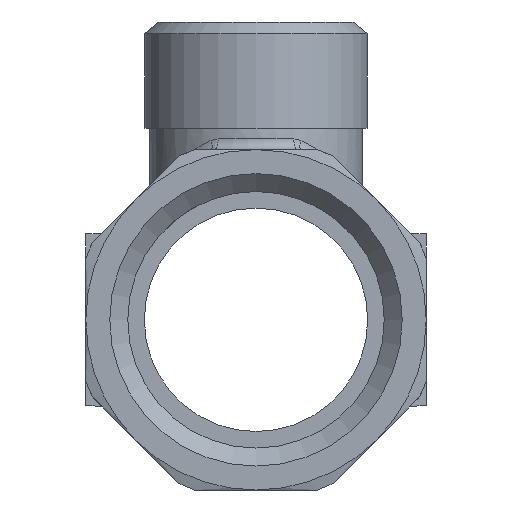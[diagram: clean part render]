
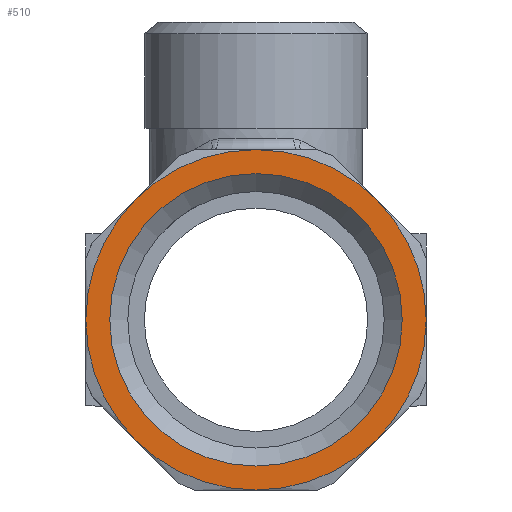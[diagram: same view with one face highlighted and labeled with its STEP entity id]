
A CAD part, front view. The second image highlights one B-rep face of the part: STEP entity #510.
In plain terms, the highlighted planar face has unit normal (0, -1, 0).
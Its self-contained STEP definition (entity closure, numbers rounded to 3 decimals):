
#510=ADVANCED_FACE('',(#6898,#6900),#6902,.F.);
#6898=FACE_BOUND('',#6899,.T.);
#6899=EDGE_LOOP('',(#11787,#11788,#11789,#11790,#11791,#11792,#11793,#11794));
#6900=FACE_BOUND('',#6901,.T.);
#6901=EDGE_LOOP('',(#11795));
#6902=PLANE('',#6903);
#6903=AXIS2_PLACEMENT_3D('',#6904,#6905,#6906);
#6904=CARTESIAN_POINT('',(0.,0.,0.));
#6905=DIRECTION('',(0.,1.,0.));
#6906=DIRECTION('',(-1.,0.,0.));
#11787=ORIENTED_EDGE('',*,*,#14502,.T.);
#11788=ORIENTED_EDGE('',*,*,#14501,.T.);
#11789=ORIENTED_EDGE('',*,*,#14500,.T.);
#11790=ORIENTED_EDGE('',*,*,#14507,.T.);
#11791=ORIENTED_EDGE('',*,*,#14506,.T.);
#11792=ORIENTED_EDGE('',*,*,#14505,.T.);
#11793=ORIENTED_EDGE('',*,*,#14504,.T.);
#11794=ORIENTED_EDGE('',*,*,#14503,.T.);
#11795=ORIENTED_EDGE('',*,*,#14673,.T.);
#14500=EDGE_CURVE('',#17124,#17180,#17224,.T.);
#14501=EDGE_CURVE('',#17132,#17124,#17225,.T.);
#14502=EDGE_CURVE('',#17140,#17132,#17226,.T.);
#14503=EDGE_CURVE('',#17148,#17140,#17227,.T.);
#14504=EDGE_CURVE('',#17156,#17148,#17228,.T.);
#14505=EDGE_CURVE('',#17164,#17156,#17229,.T.);
#14506=EDGE_CURVE('',#17172,#17164,#17230,.T.);
#14507=EDGE_CURVE('',#17180,#17172,#17231,.T.);
#14673=EDGE_CURVE('',#17562,#17562,#17563,.F.);
#17124=VERTEX_POINT('',#32276);
#17132=VERTEX_POINT('',#32333);
#17140=VERTEX_POINT('',#32382);
#17148=VERTEX_POINT('',#32454);
#17156=VERTEX_POINT('',#32503);
#17164=VERTEX_POINT('',#32560);
#17172=VERTEX_POINT('',#32609);
#17180=VERTEX_POINT('',#32666);
#17224=CIRCLE('',#32804,16.);
#17225=CIRCLE('',#32808,16.);
#17226=CIRCLE('',#32812,16.);
#17227=CIRCLE('',#32816,16.);
#17228=CIRCLE('',#32820,16.);
#17229=CIRCLE('',#32824,16.);
#17230=CIRCLE('',#32828,16.);
#17231=CIRCLE('',#32832,16.);
#17562=VERTEX_POINT('',#33501);
#17563=CIRCLE('',#33502,13.75);
#32276=CARTESIAN_POINT('',(0.,0.,16.));
#32333=CARTESIAN_POINT('',(11.314,0.,11.314));
#32382=CARTESIAN_POINT('',(16.,0.,0.));
#32454=CARTESIAN_POINT('',(11.314,0.,-11.314));
#32503=CARTESIAN_POINT('',(0.,0.,-16.));
#32560=CARTESIAN_POINT('',(-11.314,0.,-11.314));
#32609=CARTESIAN_POINT('',(-16.,0.,0.));
#32666=CARTESIAN_POINT('',(-11.314,0.,11.314));
#32804=AXIS2_PLACEMENT_3D('',#32805,#32806,#32807);
#32805=CARTESIAN_POINT('',(0.,0.,0.));
#32806=DIRECTION('',(0.,-1.,0.));
#32807=DIRECTION('',(0.,0.,1.));
#32808=AXIS2_PLACEMENT_3D('',#32809,#32810,#32811);
#32809=CARTESIAN_POINT('',(0.,0.,0.));
#32810=DIRECTION('',(0.,-1.,0.));
#32811=DIRECTION('',(0.707,0.,0.707));
#32812=AXIS2_PLACEMENT_3D('',#32813,#32814,#32815);
#32813=CARTESIAN_POINT('',(0.,0.,0.));
#32814=DIRECTION('',(0.,-1.,0.));
#32815=DIRECTION('',(1.,0.,0.));
#32816=AXIS2_PLACEMENT_3D('',#32817,#32818,#32819);
#32817=CARTESIAN_POINT('',(0.,0.,0.));
#32818=DIRECTION('',(0.,-1.,0.));
#32819=DIRECTION('',(0.707,0.,-0.707));
#32820=AXIS2_PLACEMENT_3D('',#32821,#32822,#32823);
#32821=CARTESIAN_POINT('',(0.,0.,0.));
#32822=DIRECTION('',(0.,-1.,0.));
#32823=DIRECTION('',(0.,0.,-1.));
#32824=AXIS2_PLACEMENT_3D('',#32825,#32826,#32827);
#32825=CARTESIAN_POINT('',(0.,0.,0.));
#32826=DIRECTION('',(0.,-1.,0.));
#32827=DIRECTION('',(-0.707,0.,-0.707));
#32828=AXIS2_PLACEMENT_3D('',#32829,#32830,#32831);
#32829=CARTESIAN_POINT('',(0.,0.,0.));
#32830=DIRECTION('',(0.,-1.,0.));
#32831=DIRECTION('',(-1.,0.,0.));
#32832=AXIS2_PLACEMENT_3D('',#32833,#32834,#32835);
#32833=CARTESIAN_POINT('',(0.,0.,0.));
#32834=DIRECTION('',(0.,-1.,0.));
#32835=DIRECTION('',(-0.707,0.,0.707));
#33501=CARTESIAN_POINT('',(13.75,0.,0.));
#33502=AXIS2_PLACEMENT_3D('',#33503,#33504,#33505);
#33503=CARTESIAN_POINT('',(0.,0.,0.));
#33504=DIRECTION('',(0.,-1.,0.));
#33505=DIRECTION('',(1.,0.,0.));
